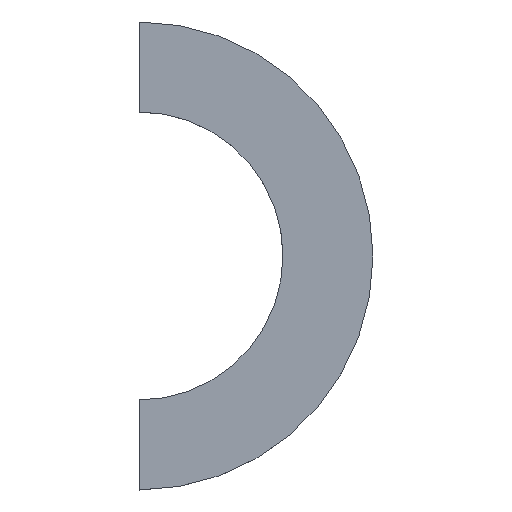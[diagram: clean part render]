
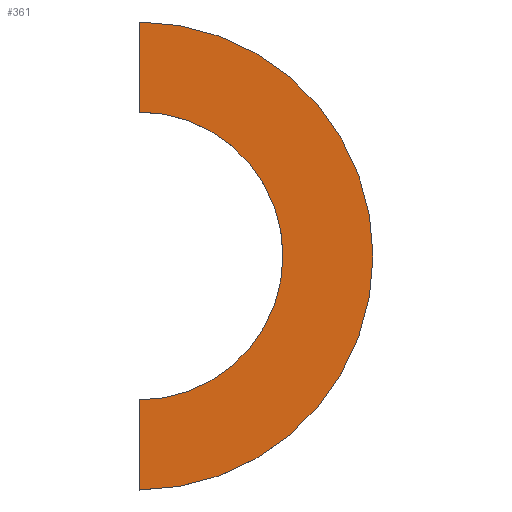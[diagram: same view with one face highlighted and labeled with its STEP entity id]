
A CAD part, top view. The second image highlights one B-rep face of the part: STEP entity #361.
In plain terms, the highlighted planar face has unit normal (0, 0, 1).
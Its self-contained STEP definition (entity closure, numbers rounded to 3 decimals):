
#24 = VERTEX_POINT('',#25);
#25 = CARTESIAN_POINT('',(4.9,0.,-0.55));
#32 = CYLINDRICAL_SURFACE('',#33,4.9);
#33 = AXIS2_PLACEMENT_3D('',#34,#35,#36);
#34 = CARTESIAN_POINT('',(0.,0.,-0.9));
#35 = DIRECTION('',(0.,0.,1.));
#36 = DIRECTION('',(1.,0.,-0.));
#44 = CYLINDRICAL_SURFACE('',#45,4.9);
#45 = AXIS2_PLACEMENT_3D('',#46,#47,#48);
#46 = CARTESIAN_POINT('',(0.,0.,-0.9));
#47 = DIRECTION('',(0.,0.,1.));
#48 = DIRECTION('',(1.,0.,-0.));
#56 = EDGE_CURVE('',#57,#24,#59,.T.);
#57 = VERTEX_POINT('',#58);
#58 = CARTESIAN_POINT('',(0.,-4.9,-0.55));
#59 = SURFACE_CURVE('',#60,(#65,#72),.PCURVE_S1.);
#60 = CIRCLE('',#61,4.9);
#61 = AXIS2_PLACEMENT_3D('',#62,#63,#64);
#62 = CARTESIAN_POINT('',(0.,0.,-0.55));
#63 = DIRECTION('',(0.,0.,1.));
#64 = DIRECTION('',(1.,0.,-0.));
#65 = PCURVE('',#32,#66);
#66 = DEFINITIONAL_REPRESENTATION('',(#67),#71);
#67 = LINE('',#68,#69);
#68 = CARTESIAN_POINT('',(0.,0.35));
#69 = VECTOR('',#70,1.);
#70 = DIRECTION('',(1.,0.));
#71 = ( GEOMETRIC_REPRESENTATION_CONTEXT(2) 
PARAMETRIC_REPRESENTATION_CONTEXT() REPRESENTATION_CONTEXT('2D SPACE',''
  ) );
#72 = PCURVE('',#73,#78);
#73 = PLANE('',#74);
#74 = AXIS2_PLACEMENT_3D('',#75,#76,#77);
#75 = CARTESIAN_POINT('',(0.,0.,-0.55));
#76 = DIRECTION('',(0.,0.,1.));
#77 = DIRECTION('',(1.,0.,-0.));
#78 = DEFINITIONAL_REPRESENTATION('',(#79),#83);
#79 = CIRCLE('',#80,4.9);
#80 = AXIS2_PLACEMENT_2D('',#81,#82);
#81 = CARTESIAN_POINT('',(0.,0.));
#82 = DIRECTION('',(1.,0.));
#83 = ( GEOMETRIC_REPRESENTATION_CONTEXT(2) 
PARAMETRIC_REPRESENTATION_CONTEXT() REPRESENTATION_CONTEXT('2D SPACE',''
  ) );
#100 = PLANE('',#101);
#101 = AXIS2_PLACEMENT_3D('',#102,#103,#104);
#102 = CARTESIAN_POINT('',(0.,-50.,-50.));
#103 = DIRECTION('',(1.,0.,0.));
#104 = DIRECTION('',(0.,0.,1.));
#141 = EDGE_CURVE('',#24,#142,#144,.T.);
#142 = VERTEX_POINT('',#143);
#143 = CARTESIAN_POINT('',(0.,4.9,-0.55));
#144 = SURFACE_CURVE('',#145,(#150,#157),.PCURVE_S1.);
#145 = CIRCLE('',#146,4.9);
#146 = AXIS2_PLACEMENT_3D('',#147,#148,#149);
#147 = CARTESIAN_POINT('',(0.,0.,-0.55));
#148 = DIRECTION('',(0.,0.,1.));
#149 = DIRECTION('',(1.,0.,-0.));
#150 = PCURVE('',#44,#151);
#151 = DEFINITIONAL_REPRESENTATION('',(#152),#156);
#152 = LINE('',#153,#154);
#153 = CARTESIAN_POINT('',(0.,0.35));
#154 = VECTOR('',#155,1.);
#155 = DIRECTION('',(1.,0.));
#156 = ( GEOMETRIC_REPRESENTATION_CONTEXT(2) 
PARAMETRIC_REPRESENTATION_CONTEXT() REPRESENTATION_CONTEXT('2D SPACE',''
  ) );
#157 = PCURVE('',#73,#158);
#158 = DEFINITIONAL_REPRESENTATION('',(#159),#163);
#159 = CIRCLE('',#160,4.9);
#160 = AXIS2_PLACEMENT_2D('',#161,#162);
#161 = CARTESIAN_POINT('',(0.,0.));
#162 = DIRECTION('',(1.,0.));
#163 = ( GEOMETRIC_REPRESENTATION_CONTEXT(2) 
PARAMETRIC_REPRESENTATION_CONTEXT() REPRESENTATION_CONTEXT('2D SPACE',''
  ) );
#203 = PLANE('',#204);
#204 = AXIS2_PLACEMENT_3D('',#205,#206,#207);
#205 = CARTESIAN_POINT('',(0.,-50.,-50.));
#206 = DIRECTION('',(1.,0.,0.));
#207 = DIRECTION('',(0.,0.,1.));
#257 = CYLINDRICAL_SURFACE('',#258,3.015);
#258 = AXIS2_PLACEMENT_3D('',#259,#260,#261);
#259 = CARTESIAN_POINT('',(0.,0.,-0.91));
#260 = DIRECTION('',(0.,0.,1.));
#261 = DIRECTION('',(1.,0.,-0.));
#286 = CYLINDRICAL_SURFACE('',#287,3.015);
#287 = AXIS2_PLACEMENT_3D('',#288,#289,#290);
#288 = CARTESIAN_POINT('',(0.,0.,-0.91));
#289 = DIRECTION('',(0.,0.,1.));
#290 = DIRECTION('',(1.,0.,-0.));
#323 = VERTEX_POINT('',#324);
#324 = CARTESIAN_POINT('',(0.,-3.015,-0.55));
#343 = EDGE_CURVE('',#57,#323,#344,.T.);
#344 = SURFACE_CURVE('',#345,(#349,#355),.PCURVE_S1.);
#345 = LINE('',#346,#347);
#346 = CARTESIAN_POINT('',(0.,-25.,-0.55));
#347 = VECTOR('',#348,1.);
#348 = DIRECTION('',(0.,1.,0.));
#349 = PCURVE('',#100,#350);
#350 = DEFINITIONAL_REPRESENTATION('',(#351),#354);
#351 = B_SPLINE_CURVE_WITH_KNOTS('',1,(#352,#353),.UNSPECIFIED.,.F.,.F.,
  (2,2),(20.1,29.9),.PIECEWISE_BEZIER_KNOTS.);
#352 = CARTESIAN_POINT('',(49.45,-45.1));
#353 = CARTESIAN_POINT('',(49.45,-54.9));
#354 = ( GEOMETRIC_REPRESENTATION_CONTEXT(2) 
PARAMETRIC_REPRESENTATION_CONTEXT() REPRESENTATION_CONTEXT('2D SPACE',''
  ) );
#355 = PCURVE('',#73,#356);
#356 = DEFINITIONAL_REPRESENTATION('',(#357),#360);
#357 = B_SPLINE_CURVE_WITH_KNOTS('',1,(#358,#359),.UNSPECIFIED.,.F.,.F.,
  (2,2),(20.1,29.9),.PIECEWISE_BEZIER_KNOTS.);
#358 = CARTESIAN_POINT('',(0.,-4.9));
#359 = CARTESIAN_POINT('',(0.,4.9));
#360 = ( GEOMETRIC_REPRESENTATION_CONTEXT(2) 
PARAMETRIC_REPRESENTATION_CONTEXT() REPRESENTATION_CONTEXT('2D SPACE',''
  ) );
#361 = ADVANCED_FACE('',(#362),#73,.T.);
#362 = FACE_BOUND('',#363,.T.);
#363 = EDGE_LOOP('',(#364,#365,#366,#387,#411,#433));
#364 = ORIENTED_EDGE('',*,*,#56,.T.);
#365 = ORIENTED_EDGE('',*,*,#141,.T.);
#366 = ORIENTED_EDGE('',*,*,#367,.F.);
#367 = EDGE_CURVE('',#368,#142,#370,.T.);
#368 = VERTEX_POINT('',#369);
#369 = CARTESIAN_POINT('',(0.,3.015,-0.55));
#370 = SURFACE_CURVE('',#371,(#375,#381),.PCURVE_S1.);
#371 = LINE('',#372,#373);
#372 = CARTESIAN_POINT('',(0.,-25.,-0.55));
#373 = VECTOR('',#374,1.);
#374 = DIRECTION('',(0.,1.,0.));
#375 = PCURVE('',#73,#376);
#376 = DEFINITIONAL_REPRESENTATION('',(#377),#380);
#377 = B_SPLINE_CURVE_WITH_KNOTS('',1,(#378,#379),.UNSPECIFIED.,.F.,.F.,
  (2,2),(20.1,29.9),.PIECEWISE_BEZIER_KNOTS.);
#378 = CARTESIAN_POINT('',(0.,-4.9));
#379 = CARTESIAN_POINT('',(0.,4.9));
#380 = ( GEOMETRIC_REPRESENTATION_CONTEXT(2) 
PARAMETRIC_REPRESENTATION_CONTEXT() REPRESENTATION_CONTEXT('2D SPACE',''
  ) );
#381 = PCURVE('',#203,#382);
#382 = DEFINITIONAL_REPRESENTATION('',(#383),#386);
#383 = B_SPLINE_CURVE_WITH_KNOTS('',1,(#384,#385),.UNSPECIFIED.,.F.,.F.,
  (2,2),(20.1,29.9),.PIECEWISE_BEZIER_KNOTS.);
#384 = CARTESIAN_POINT('',(49.45,-45.1));
#385 = CARTESIAN_POINT('',(49.45,-54.9));
#386 = ( GEOMETRIC_REPRESENTATION_CONTEXT(2) 
PARAMETRIC_REPRESENTATION_CONTEXT() REPRESENTATION_CONTEXT('2D SPACE',''
  ) );
#387 = ORIENTED_EDGE('',*,*,#388,.F.);
#388 = EDGE_CURVE('',#389,#368,#391,.T.);
#389 = VERTEX_POINT('',#390);
#390 = CARTESIAN_POINT('',(3.015,0.,-0.55));
#391 = SURFACE_CURVE('',#392,(#397,#404),.PCURVE_S1.);
#392 = CIRCLE('',#393,3.015);
#393 = AXIS2_PLACEMENT_3D('',#394,#395,#396);
#394 = CARTESIAN_POINT('',(0.,0.,-0.55));
#395 = DIRECTION('',(0.,0.,1.));
#396 = DIRECTION('',(1.,0.,-0.));
#397 = PCURVE('',#73,#398);
#398 = DEFINITIONAL_REPRESENTATION('',(#399),#403);
#399 = CIRCLE('',#400,3.015);
#400 = AXIS2_PLACEMENT_2D('',#401,#402);
#401 = CARTESIAN_POINT('',(0.,0.));
#402 = DIRECTION('',(1.,0.));
#403 = ( GEOMETRIC_REPRESENTATION_CONTEXT(2) 
PARAMETRIC_REPRESENTATION_CONTEXT() REPRESENTATION_CONTEXT('2D SPACE',''
  ) );
#404 = PCURVE('',#257,#405);
#405 = DEFINITIONAL_REPRESENTATION('',(#406),#410);
#406 = LINE('',#407,#408);
#407 = CARTESIAN_POINT('',(0.,0.36));
#408 = VECTOR('',#409,1.);
#409 = DIRECTION('',(1.,0.));
#410 = ( GEOMETRIC_REPRESENTATION_CONTEXT(2) 
PARAMETRIC_REPRESENTATION_CONTEXT() REPRESENTATION_CONTEXT('2D SPACE',''
  ) );
#411 = ORIENTED_EDGE('',*,*,#412,.F.);
#412 = EDGE_CURVE('',#323,#389,#413,.T.);
#413 = SURFACE_CURVE('',#414,(#419,#426),.PCURVE_S1.);
#414 = CIRCLE('',#415,3.015);
#415 = AXIS2_PLACEMENT_3D('',#416,#417,#418);
#416 = CARTESIAN_POINT('',(0.,0.,-0.55));
#417 = DIRECTION('',(0.,0.,1.));
#418 = DIRECTION('',(1.,0.,-0.));
#419 = PCURVE('',#73,#420);
#420 = DEFINITIONAL_REPRESENTATION('',(#421),#425);
#421 = CIRCLE('',#422,3.015);
#422 = AXIS2_PLACEMENT_2D('',#423,#424);
#423 = CARTESIAN_POINT('',(0.,0.));
#424 = DIRECTION('',(1.,0.));
#425 = ( GEOMETRIC_REPRESENTATION_CONTEXT(2) 
PARAMETRIC_REPRESENTATION_CONTEXT() REPRESENTATION_CONTEXT('2D SPACE',''
  ) );
#426 = PCURVE('',#286,#427);
#427 = DEFINITIONAL_REPRESENTATION('',(#428),#432);
#428 = LINE('',#429,#430);
#429 = CARTESIAN_POINT('',(0.,0.36));
#430 = VECTOR('',#431,1.);
#431 = DIRECTION('',(1.,0.));
#432 = ( GEOMETRIC_REPRESENTATION_CONTEXT(2) 
PARAMETRIC_REPRESENTATION_CONTEXT() REPRESENTATION_CONTEXT('2D SPACE',''
  ) );
#433 = ORIENTED_EDGE('',*,*,#343,.F.);
